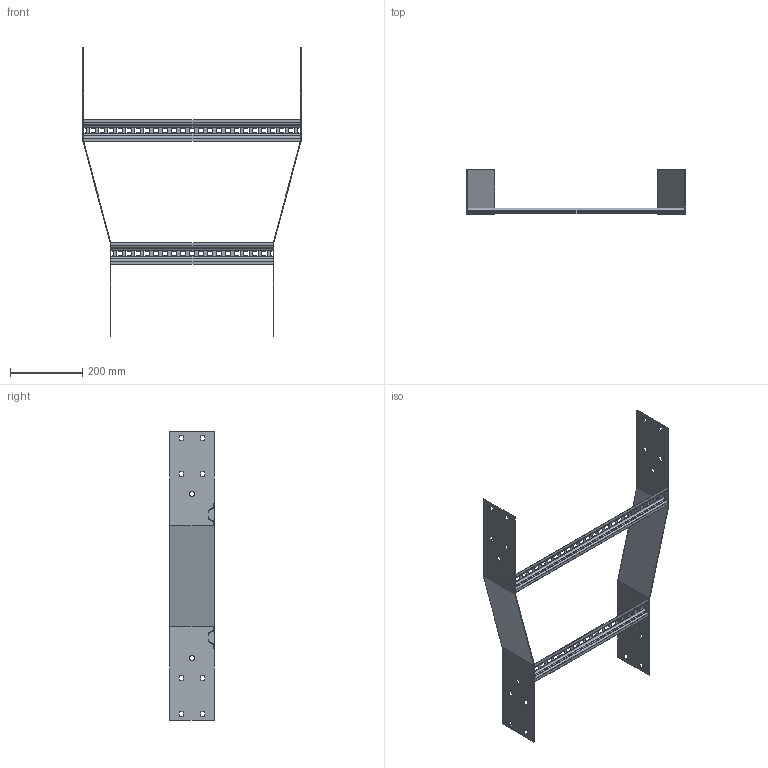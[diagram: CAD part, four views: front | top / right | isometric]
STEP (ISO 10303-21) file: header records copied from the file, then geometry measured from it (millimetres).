
FILE_DESCRIPTION (( 'STEP AP203' ), '1' );
FILE_NAME ('N3 SR 600450.STEP', '2022-09-19T05:41:19', ( '' ), ( '' ), 'SwSTEP 2.0', 'SolidWorks 2021', '' );
FILE_SCHEMA (( 'CONFIG_CONTROL_DESIGN' ));
Length unit declared in the file: millimetre
Products named in the file (4): Ladder Rung_Ladder Rung -  450mm; Ladder Rung_Ladder Rung -  600mm; N3 Reducer side plate_SR450x600; N3 SR 600450
Assembly tree (4 placements, depth 2):
  N3 SR 600450
    N3 Reducer side plate_SR450x600  x2
    Ladder Rung_Ladder Rung -  450mm
    Ladder Rung_Ladder Rung -  600mm
Bounding box: 604 x 124 x 800 mm (x, y, z)
Volume: 507907 mm3; surface area: 552925.8 mm2
Topology: 4 solids, 4 shells, 368 faces, 984 edges, 624 vertices
Faces by surface type: plane 336, cylinder 32
Entity records: 10070 total; most frequent: CARTESIAN_POINT 1677, ORIENTED_EDGE 1664, DIRECTION 1514, EDGE_CURVE 832, LINE 784, VECTOR 784, VERTEX_POINT 528, EDGE_LOOP 410
